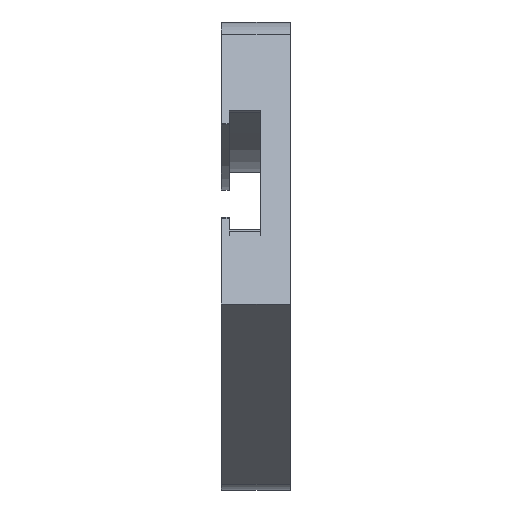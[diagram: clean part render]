
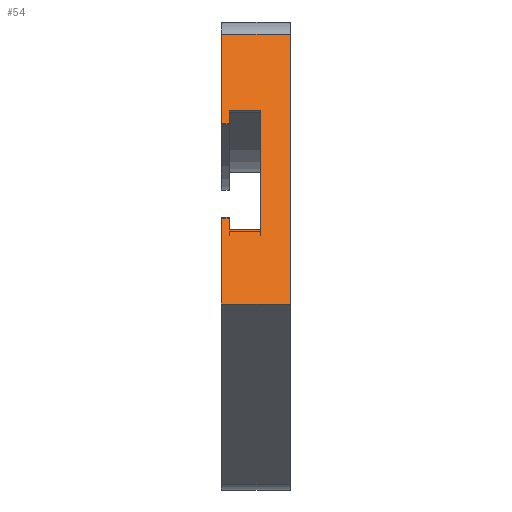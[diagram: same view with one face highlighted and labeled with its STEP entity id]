
A CAD part, left-side view. The second image highlights one B-rep face of the part: STEP entity #54.
In plain terms, the highlighted planar face has unit normal (-0.707, 0, 0.707).
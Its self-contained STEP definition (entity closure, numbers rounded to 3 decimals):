
#54=ADVANCED_FACE('',(#197),#199,.T.);
#197=FACE_BOUND('',#198,.T.);
#198=EDGE_LOOP('',(#857,#858,#859,#860,#861,#862,#863,#864,#865,#866,#867,#868));
#199=PLANE('',#200);
#200=AXIS2_PLACEMENT_3D('',#201,#202,#203);
#201=CARTESIAN_POINT('',(-545.,0.,31.));
#202=DIRECTION('',(-0.707,0.,0.707));
#203=DIRECTION('',(0.707,0.,0.707));
#857=ORIENTED_EDGE('',*,*,#1326,.T.);
#858=ORIENTED_EDGE('',*,*,#1315,.F.);
#859=ORIENTED_EDGE('',*,*,#1327,.T.);
#860=ORIENTED_EDGE('',*,*,#1328,.T.);
#861=ORIENTED_EDGE('',*,*,#1329,.T.);
#862=ORIENTED_EDGE('',*,*,#1330,.T.);
#863=ORIENTED_EDGE('',*,*,#1331,.T.);
#864=ORIENTED_EDGE('',*,*,#1332,.T.);
#865=ORIENTED_EDGE('',*,*,#1333,.T.);
#866=ORIENTED_EDGE('',*,*,#1296,.F.);
#867=ORIENTED_EDGE('',*,*,#1325,.F.);
#868=ORIENTED_EDGE('',*,*,#1334,.T.);
#1296=EDGE_CURVE('',#1534,#1536,#1537,.T.);
#1315=EDGE_CURVE('',#1572,#1558,#1574,.T.);
#1325=EDGE_CURVE('',#1590,#1534,#1592,.T.);
#1326=EDGE_CURVE('',#1593,#1558,#1594,.T.);
#1327=EDGE_CURVE('',#1572,#1595,#1596,.F.);
#1328=EDGE_CURVE('',#1595,#1597,#1598,.F.);
#1329=EDGE_CURVE('',#1597,#1599,#1600,.F.);
#1330=EDGE_CURVE('',#1599,#1601,#1602,.F.);
#1331=EDGE_CURVE('',#1601,#1603,#1604,.F.);
#1332=EDGE_CURVE('',#1603,#1605,#1606,.F.);
#1333=EDGE_CURVE('',#1605,#1536,#1607,.F.);
#1334=EDGE_CURVE('',#1590,#1593,#1608,.T.);
#1534=VERTEX_POINT('',#1936);
#1536=VERTEX_POINT('',#1940);
#1537=LINE('',#1941,#1942);
#1558=VERTEX_POINT('',#1990);
#1572=VERTEX_POINT('',#2022);
#1574=LINE('',#2026,#2027);
#1590=VERTEX_POINT('',#2066);
#1592=LINE('',#2070,#2071);
#1593=VERTEX_POINT('',#2073);
#1594=LINE('',#2074,#2075);
#1595=VERTEX_POINT('',#2077);
#1596=LINE('',#2078,#2079);
#1597=VERTEX_POINT('',#2081);
#1598=LINE('',#2082,#2083);
#1599=VERTEX_POINT('',#2085);
#1600=LINE('',#2086,#2087);
#1601=VERTEX_POINT('',#2089);
#1602=LINE('',#2090,#2091);
#1603=VERTEX_POINT('',#2093);
#1604=LINE('',#2094,#2095);
#1605=VERTEX_POINT('',#2097);
#1606=LINE('',#2098,#2099);
#1607=LINE('',#2101,#2102);
#1608=LINE('',#2104,#2105);
#1936=CARTESIAN_POINT('',(-545.,11.5,31.));
#1940=CARTESIAN_POINT('',(-530.504,11.5,45.496));
#1941=CARTESIAN_POINT('',(-545.,11.5,31.));
#1942=VECTOR('',#1943,1.);
#1943=DIRECTION('',(0.707,0.,0.707));
#1990=CARTESIAN_POINT('',(-500.05,11.5,75.95));
#2022=CARTESIAN_POINT('',(-514.948,11.5,61.052));
#2026=CARTESIAN_POINT('',(-514.948,11.5,61.052));
#2027=VECTOR('',#2028,1.);
#2028=DIRECTION('',(0.707,0.,0.707));
#2066=CARTESIAN_POINT('',(-545.,0.,31.));
#2070=CARTESIAN_POINT('',(-545.,0.,31.));
#2071=VECTOR('',#2072,1.);
#2072=DIRECTION('',(0.,1.,0.));
#2073=CARTESIAN_POINT('',(-500.05,0.,75.95));
#2074=CARTESIAN_POINT('',(-500.05,0.,75.95));
#2075=VECTOR('',#2076,1.);
#2076=DIRECTION('',(0.,1.,0.));
#2077=CARTESIAN_POINT('',(-514.948,10.2,61.052));
#2078=CARTESIAN_POINT('',(-514.948,10.2,61.052));
#2079=VECTOR('',#2080,1.);
#2080=DIRECTION('',(0.,1.,0.));
#2081=CARTESIAN_POINT('',(-512.827,10.2,63.173));
#2082=CARTESIAN_POINT('',(-512.827,10.2,63.173));
#2083=VECTOR('',#2084,1.);
#2084=DIRECTION('',(-0.707,0.,-0.707));
#2085=CARTESIAN_POINT('',(-512.827,5.,63.173));
#2086=CARTESIAN_POINT('',(-512.827,5.,63.173));
#2087=VECTOR('',#2088,1.);
#2088=DIRECTION('',(0.,1.,0.));
#2089=CARTESIAN_POINT('',(-532.626,5.,43.374));
#2090=CARTESIAN_POINT('',(-532.626,5.,43.374));
#2091=VECTOR('',#2092,1.);
#2092=DIRECTION('',(0.707,0.,0.707));
#2093=CARTESIAN_POINT('',(-532.626,10.2,43.374));
#2094=CARTESIAN_POINT('',(-532.626,10.2,43.374));
#2095=VECTOR('',#2096,1.);
#2096=DIRECTION('',(0.,-1.,0.));
#2097=CARTESIAN_POINT('',(-530.504,10.2,45.496));
#2098=CARTESIAN_POINT('',(-530.504,10.2,45.496));
#2099=VECTOR('',#2100,1.);
#2100=DIRECTION('',(-0.707,0.,-0.707));
#2101=CARTESIAN_POINT('',(-530.504,11.5,45.496));
#2102=VECTOR('',#2103,1.);
#2103=DIRECTION('',(0.,-1.,0.));
#2104=CARTESIAN_POINT('',(-545.,0.,31.));
#2105=VECTOR('',#2106,1.);
#2106=DIRECTION('',(0.707,0.,0.707));
